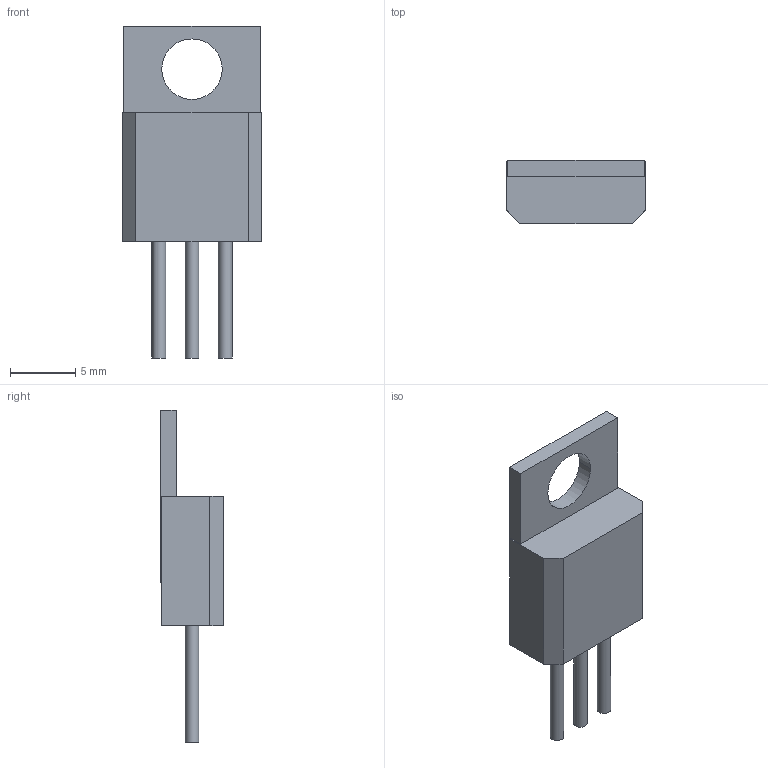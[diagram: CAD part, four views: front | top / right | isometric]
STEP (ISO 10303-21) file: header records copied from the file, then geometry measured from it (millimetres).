
FILE_DESCRIPTION(('STEP AP214'),'1');
FILE_NAME('TO-220_TEX','2025-11-11T12:23:39',(''),(''),'','','');
FILE_SCHEMA(('AUTOMOTIVE_DESIGN'));
Length unit declared in the file: millimetre
Products named in the file (1): product
Bounding box: 10.67 x 4.83 x 25.4 mm (x, y, z)
Volume: 580.4 mm3; surface area: 759.3 mm2
Topology: 5 solids, 5 shells, 31 faces, 61 edges, 40 vertices
Faces by surface type: plane 26, cylinder 5
Full cylindrical faces by diameter (mm): 1.041 x3
Entity records: 940 total; most frequent: DIRECTION 138, ORIENTED_EDGE 116, CARTESIAN_POINT 83, EDGE_CURVE 58, LINE 48, VECTOR 48, AXIS2_PLACEMENT_3D 45, VERTEX_POINT 40
